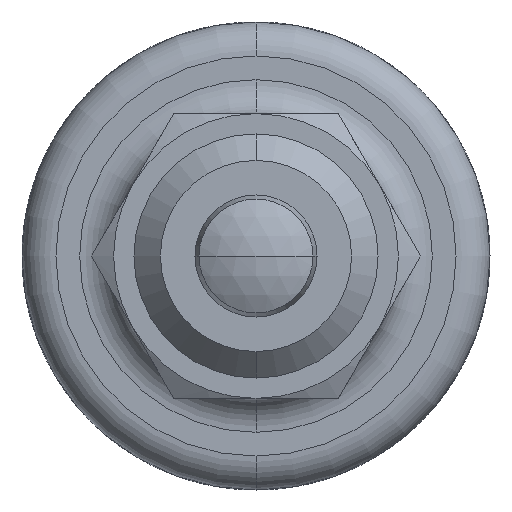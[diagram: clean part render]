
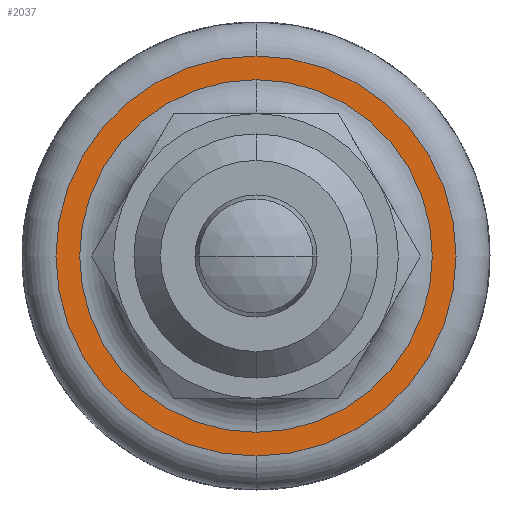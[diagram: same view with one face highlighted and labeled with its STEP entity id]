
A CAD part, front view. The second image highlights one B-rep face of the part: STEP entity #2037.
In plain terms, the highlighted planar face has unit normal (0, -1, 0).
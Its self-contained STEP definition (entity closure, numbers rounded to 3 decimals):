
#1334 = EDGE_CURVE ( 'NONE', #1335, #1336, #5259, .T. ) ;
#1335 = VERTEX_POINT ( 'NONE', #5320 ) ;
#1336 = VERTEX_POINT ( 'NONE', #5319 ) ;
#1393 = EDGE_CURVE ( 'NONE', #1394, #1395, #5362, .T. ) ;
#1394 = VERTEX_POINT ( 'NONE', #5353 ) ;
#1395 = VERTEX_POINT ( 'NONE', #5415 ) ;
#1971 = EDGE_LOOP ( 'NONE', ( #2038, #2040 ) ) ;
#2037 = ADVANCED_FACE ( 'NONE', ( #6650, #6644 ), #6643, .F. ) ;
#2038 = ORIENTED_EDGE ( 'NONE', *, *, #2039, .T. ) ;
#2039 = EDGE_CURVE ( 'NONE', #1336, #1335, #6642, .T. ) ;
#2040 = ORIENTED_EDGE ( 'NONE', *, *, #1334, .T. ) ;
#2041 = EDGE_LOOP ( 'NONE', ( #2042, #2044 ) ) ;
#2042 = ORIENTED_EDGE ( 'NONE', *, *, #2043, .T. ) ;
#2043 = EDGE_CURVE ( 'NONE', #1395, #1394, #6633, .T. ) ;
#2044 = ORIENTED_EDGE ( 'NONE', *, *, #1393, .T. ) ;
#5257 = DIRECTION ( 'NONE',  ( 0., 1., 0. ) ) ;
#5258 = AXIS2_PLACEMENT_3D ( 'NONE', #5262, #5257, #5321 ) ;
#5259 = CIRCLE ( 'NONE', #5258, 8.667 ) ;
#5262 = CARTESIAN_POINT ( 'NONE',  ( 0., 13.333, 0. ) ) ;
#5319 = CARTESIAN_POINT ( 'NONE',  ( 0., 13.333, 8.667 ) ) ;
#5320 = CARTESIAN_POINT ( 'NONE',  ( 0., 13.333, -8.667 ) ) ;
#5321 = DIRECTION ( 'NONE',  ( 0., 0., 1. ) ) ;
#5353 = CARTESIAN_POINT ( 'NONE',  ( 0., 13.333, -9.833 ) ) ;
#5354 = DIRECTION ( 'NONE',  ( 0., 0., 1. ) ) ;
#5355 = DIRECTION ( 'NONE',  ( 0., -1., 0. ) ) ;
#5356 = CARTESIAN_POINT ( 'NONE',  ( 0., 13.333, 0. ) ) ;
#5357 = AXIS2_PLACEMENT_3D ( 'NONE', #5356, #5355, #5354 ) ;
#5362 = CIRCLE ( 'NONE', #5357, 9.833 ) ;
#5415 = CARTESIAN_POINT ( 'NONE',  ( 0., 13.333, 9.833 ) ) ;
#6632 = AXIS2_PLACEMENT_3D ( 'NONE', #6694, #6693, #6692 ) ;
#6633 = CIRCLE ( 'NONE', #6632, 9.833 ) ;
#6634 = DIRECTION ( 'NONE',  ( 0., 0., 1. ) ) ;
#6635 = DIRECTION ( 'NONE',  ( 0., 1., 0. ) ) ;
#6636 = CARTESIAN_POINT ( 'NONE',  ( 0., 13.333, 0. ) ) ;
#6637 = AXIS2_PLACEMENT_3D ( 'NONE', #6636, #6635, #6634 ) ;
#6638 = DIRECTION ( 'NONE',  ( 0., 0., 1. ) ) ;
#6639 = DIRECTION ( 'NONE',  ( 0., 1., 0. ) ) ;
#6640 = CARTESIAN_POINT ( 'NONE',  ( 0., 13.333, 0. ) ) ;
#6641 = AXIS2_PLACEMENT_3D ( 'NONE', #6640, #6639, #6638 ) ;
#6642 = CIRCLE ( 'NONE', #6637, 8.667 ) ;
#6643 = PLANE ( 'NONE',  #6641 ) ;
#6644 = FACE_OUTER_BOUND ( 'NONE', #2041, .T. ) ;
#6650 = FACE_BOUND ( 'NONE', #1971, .T. ) ;
#6692 = DIRECTION ( 'NONE',  ( 0., 0., 1. ) ) ;
#6693 = DIRECTION ( 'NONE',  ( 0., -1., 0. ) ) ;
#6694 = CARTESIAN_POINT ( 'NONE',  ( 0., 13.333, 0. ) ) ;
